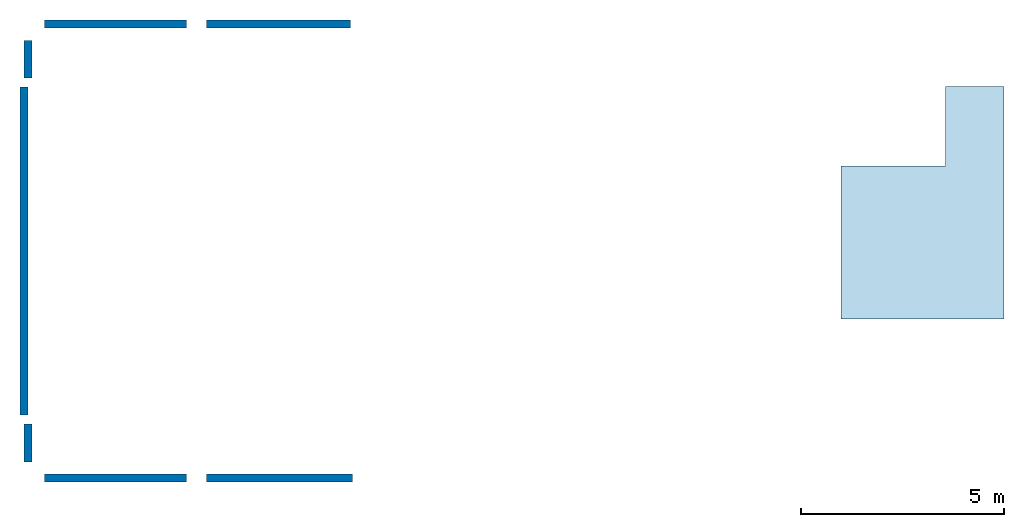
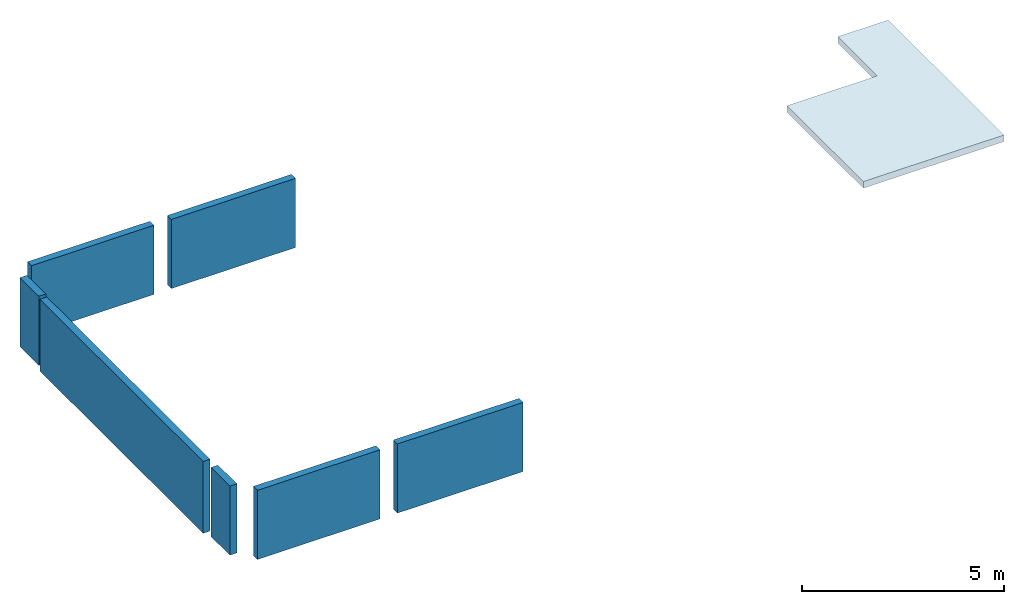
# One storey: 7 walls, 1 slab.
"""IFC2X3 building model written with IfcOpenShell, lengths in metres."""

from ifc_helpers import new_model, entity, si_unit, converted_unit, derived_unit, direction, frame, frame_2d, origin, place, context, subcontext, project, spatial, polyline, rectangle, outline, extrude, material, layer, layer_set, layer_usage, type_object, element, save


model = new_model("IFC2X3")

# Units and contexts
model_context = context("Model", 3, precision=1e-05, world=origin(), true_north=direction((6.12303176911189e-17, 1.0)))
body_context = subcontext(model_context, "Body", "Model", "MODEL_VIEW")
ifc_project = project(units=[si_unit("LENGTHUNIT", "METRE"), si_unit("AREAUNIT", "SQUARE_METRE"), si_unit("VOLUMEUNIT", "CUBIC_METRE"), converted_unit("PLANEANGLEUNIT", "DEGREE", entity("IfcRatioMeasure", 0.0174532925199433), si_unit("PLANEANGLEUNIT", "RADIAN"), dimensions=[0, 0, 0, 0, 0, 0, 0]), si_unit("MASSUNIT", "GRAM", prefix="KILO"), derived_unit("MASSDENSITYUNIT", [(si_unit("MASSUNIT", "GRAM", prefix="KILO"), 1), (si_unit("LENGTHUNIT", "METRE"), -3)]), si_unit("TIMEUNIT", "SECOND"), si_unit("FREQUENCYUNIT", "HERTZ"), si_unit("THERMODYNAMICTEMPERATUREUNIT", "DEGREE_CELSIUS"), derived_unit("THERMALTRANSMITTANCEUNIT", [(si_unit("MASSUNIT", "GRAM", prefix="KILO"), 1), (si_unit("THERMODYNAMICTEMPERATUREUNIT", "KELVIN"), -1), (si_unit("TIMEUNIT", "SECOND"), -3)]), derived_unit("VOLUMETRICFLOWRATEUNIT", [(si_unit("LENGTHUNIT", "METRE"), 3), (si_unit("TIMEUNIT", "SECOND"), -1)]), si_unit("ELECTRICCURRENTUNIT", "AMPERE"), si_unit("ELECTRICVOLTAGEUNIT", "VOLT"), si_unit("POWERUNIT", "WATT"), si_unit("FORCEUNIT", "NEWTON"), si_unit("ILLUMINANCEUNIT", "LUX"), si_unit("LUMINOUSFLUXUNIT", "LUMEN"), si_unit("LUMINOUSINTENSITYUNIT", "CANDELA"), derived_unit("USERDEFINED", [(si_unit("MASSUNIT", "GRAM", prefix="KILO"), -1), (si_unit("LENGTHUNIT", "METRE"), -2), (si_unit("TIMEUNIT", "SECOND"), 3), (si_unit("LUMINOUSFLUXUNIT", "LUMEN"), 1)]), derived_unit("LINEARVELOCITYUNIT", [(si_unit("LENGTHUNIT", "METRE"), 1), (si_unit("TIMEUNIT", "SECOND"), -1)]), si_unit("PRESSUREUNIT", "PASCAL"), derived_unit("USERDEFINED", [(si_unit("LENGTHUNIT", "METRE"), -2), (si_unit("MASSUNIT", "GRAM", prefix="KILO"), 1), (si_unit("TIMEUNIT", "SECOND"), -2)])], contexts=[model_context])

# Site, building, storey
site_placement = place(None, origin())
site = spatial("IfcSite", under=ifc_project, at=site_placement, Name="Default", CompositionType="ELEMENT")
building_placement = place(site_placement, origin())
building = spatial("IfcBuilding", under=site, at=building_placement, CompositionType="ELEMENT")
storey_placement = place(building_placement, frame((0.0, 0.0, -0.0599999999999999)))
storey = spatial("IfcBuildingStorey", under=building, at=storey_placement, Name="S01", CompositionType="ELEMENT", Elevation=-0.0599999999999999)

# Slab
ifc_material_1 = material(Name="Sol par défaut")
ifc_layer_1 = layer(ifc_material_1, 0.2)
ifc_layer_set_1 = layer_set([ifc_layer_1], Name="Floor:Dalle BA ép.20")
ifc_layer_usage_1 = layer_usage(ifc_layer_set_1, "AXIS3", "POSITIVE", 0.0)
slab_type = type_object("IfcSlabType", Name="Floor:Dalle BA ép.20", PredefinedType="FLOOR", material=ifc_layer_set_1)
slab_placement = place(storey_placement, origin())
element("IfcSlab", 1, at=slab_placement, inside=storey, type_object=slab_type, material=ifc_layer_usage_1, Name="Floor:Dalle BA ép.20", ObjectType="Floor:Dalle BA ép.20", PredefinedType="FLOOR", context=body_context, shape_type="SweptSolid", body=[
    extrude(outline(polyline([(-3.17063454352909, -2.19999999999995), (0.610317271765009, -2.19999999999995), (0.610317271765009, 0.38), (2.56031727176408, 0.38), (2.56031727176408, 1.81999999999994), (-3.17063454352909, 1.81999999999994), (-3.17063454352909, -2.19999999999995)])), frame((47.5697436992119, -187.716805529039, 0.0), z_axis=(0.0, 0.0, -1.0), x_axis=(0.0, 1.0, 0.0)), (0.0, 0.0, 1.0), 0.2),
])

# Walls
ifc_material_2 = material(Name="Mur par défaut")
ifc_layer_2 = layer(ifc_material_2, 0.2)
ifc_layer_set_2 = layer_set([ifc_layer_2], Name="Basic Wall:Mur BA Contre terre - 20cm")
ifc_layer_usage_2 = layer_usage(ifc_layer_set_2, "AXIS2", "NEGATIVE", 0.1)
wall_type = type_object("IfcWallType", Name="Basic Wall:Mur BA Contre terre - 20cm", PredefinedType="STANDARD", material=ifc_layer_set_2)
wall_1_placement = place(storey_placement, frame((29.2397436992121, -194.801320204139, -2.11), z_axis=(0.0, 0.0, 1.0), x_axis=(-1.0, 0.0, 0.0)))
element("IfcWallStandardCase", 2, at=wall_1_placement, inside=storey, type_object=wall_type, material=ifc_layer_usage_2, Name="Basic Wall:Mur BA Contre terre - 20cm", ObjectType="Basic Wall:Mur BA Contre terre - 20cm", context=body_context, shape_type="SweptSolid", body=[
    extrude(rectangle(XDim=3.50000000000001, YDim=0.200000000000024, at=frame_2d((1.75, 1.04083408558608e-15), x_axis=(-1.0, 0.0))), origin(), (0.0, 0.0, 1.0), 2.09),
])
ifc_layer_usage_3 = layer_usage(ifc_layer_set_2, "AXIS2", "NEGATIVE", 0.1)
wall_2_placement = place(storey_placement, frame((25.3397436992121, -194.40132020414, -2.11), z_axis=(0.0, 0.0, 1.0), x_axis=(0.0, 1.0, 0.0)))
element("IfcWallStandardCase", 3, at=wall_2_placement, inside=storey, type_object=wall_type, material=ifc_layer_usage_3, Name="Basic Wall:Mur BA Contre terre - 20cm", ObjectType="Basic Wall:Mur BA Contre terre - 20cm", context=body_context, shape_type="SweptSolid", body=[
    extrude(rectangle(XDim=0.931668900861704, YDim=0.199999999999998, at=frame_2d((0.465834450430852, 4.09394740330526e-16), x_axis=(-1.0, 0.0))), origin(), (0.0, 0.0, 1.0), 2.09),
])
ifc_layer_usage_4 = layer_usage(ifc_layer_set_2, "AXIS2", "NEGATIVE", 0.1)
wall_3_placement = place(storey_placement, frame((25.2417436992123, -193.24965130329, -2.11), z_axis=(0.0, 0.0, 1.0), x_axis=(0.0, 1.0, 0.0)))
element("IfcWallStandardCase", 4, at=wall_3_placement, inside=storey, type_object=wall_type, material=ifc_layer_usage_4, Name="Basic Wall:Mur BA Contre terre - 20cm", ObjectType="Basic Wall:Mur BA Contre terre - 20cm", context=body_context, shape_type="SweptSolid", body=[
    extrude(rectangle(XDim=8.08316304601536, YDim=0.199999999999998, at=frame_2d((4.04158152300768, 1.37390099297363e-15), x_axis=(-1.0, 0.0))), origin(), (0.0, 0.0, 1.0), 2.17),
])
ifc_layer_usage_5 = layer_usage(ifc_layer_set_2, "AXIS2", "NEGATIVE", 0.1)
wall_4_placement = place(storey_placement, frame((25.3397436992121, -184.946488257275, -2.11), z_axis=(0.0, 0.0, 1.0), x_axis=(0.0, 1.0, 0.0)))
element("IfcWallStandardCase", 5, at=wall_4_placement, inside=storey, type_object=wall_type, material=ifc_layer_usage_5, Name="Basic Wall:Mur BA Contre terre - 20cm", ObjectType="Basic Wall:Mur BA Contre terre - 20cm", context=body_context, shape_type="SweptSolid", body=[
    extrude(rectangle(XDim=0.93166921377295, YDim=0.199999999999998, at=frame_2d((0.465834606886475, 4.09394740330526e-16), x_axis=(-1.0, 0.0))), origin(), (0.0, 0.0, 1.0), 2.09),
])
ifc_layer_usage_6 = layer_usage(ifc_layer_set_2, "AXIS2", "NEGATIVE", 0.1)
wall_5_placement = place(storey_placement, frame((25.7397436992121, -183.614819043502, -2.11)))
element("IfcWallStandardCase", 6, at=wall_5_placement, inside=storey, type_object=wall_type, material=ifc_layer_usage_6, Name="Basic Wall:Mur BA Contre terre - 20cm", ObjectType="Basic Wall:Mur BA Contre terre - 20cm", context=body_context, shape_type="SweptSolid", body=[
    extrude(rectangle(XDim=3.5, YDim=0.200000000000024, at=frame_2d((1.75, 2.56739074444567e-15), x_axis=(-1.0, 0.0))), origin(), (0.0, 0.0, 1.0), 2.09),
])
ifc_layer_usage_7 = layer_usage(ifc_layer_set_2, "AXIS2", "NEGATIVE", 0.1)
wall_6_placement = place(storey_placement, frame((29.7397436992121, -183.614819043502, -2.11)))
element("IfcWallStandardCase", 7, at=wall_6_placement, inside=storey, type_object=wall_type, material=ifc_layer_usage_7, Name="Basic Wall:Mur BA Contre terre - 20cm", ObjectType="Basic Wall:Mur BA Contre terre - 20cm", context=body_context, shape_type="SweptSolid", body=[
    extrude(rectangle(XDim=3.55000000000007, YDim=0.200000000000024, at=frame_2d((1.77500000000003, 2.85188539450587e-15), x_axis=(-1.0, 0.0))), origin(), (0.0, 0.0, 1.0), 2.09),
])
ifc_layer_usage_8 = layer_usage(ifc_layer_set_2, "AXIS2", "NEGATIVE", 0.1)
wall_7_placement = place(storey_placement, frame((33.3297436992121, -194.801320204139, -2.11), z_axis=(0.0, 0.0, 1.0), x_axis=(-1.0, 0.0, 0.0)))
element("IfcWallStandardCase", 8, at=wall_7_placement, inside=storey, type_object=wall_type, material=ifc_layer_usage_8, Name="Basic Wall:Mur BA Contre terre - 20cm", ObjectType="Basic Wall:Mur BA Contre terre - 20cm", context=body_context, shape_type="SweptSolid", body=[
    extrude(rectangle(XDim=3.59000000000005, YDim=0.200000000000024, at=frame_2d((1.79500000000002, 1.51961776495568e-15), x_axis=(-1.0, 0.0))), origin(), (0.0, 0.0, 1.0), 2.09),
])

save(model, "model.ifc")
